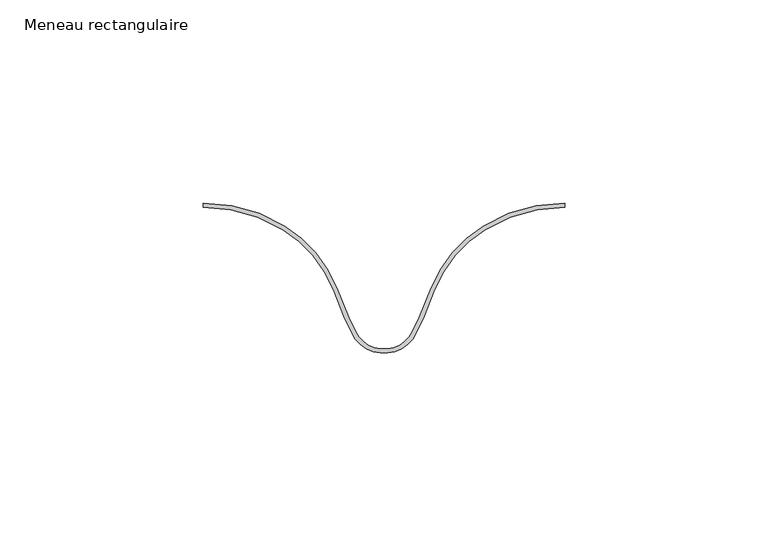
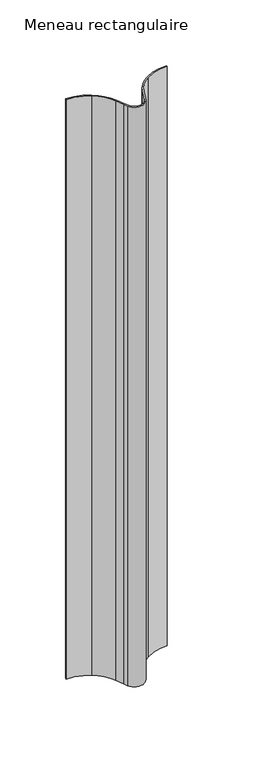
"""IFC4 building model written with IfcOpenShell, lengths in millimetres: member geometry, Meneau rectangulaire : Regolare 800."""

from ifc_helpers import new_model, si_unit, point, frame, frame_2d, origin, place, context, project, spatial, polyline, circle_curve, trimmed, segment, composite_curve, outline, extrude, source, transform, mapped, element, save


def meneau_rectangulaire_3ecfb573(model_context):
    return source(origin(), model_context, "Body", "SweptSolid", [
        extrude(outline(composite_curve([segment(trimmed(circle_curve(frame_2d((40.9600993, 4.3198001)), 30.6166783), [point((24.9849944, 30.4383187))], [point((12.5330095, 15.6900047))], True, "CARTESIAN"), True, "CONTINUOUS"), segment(polyline([(12.5330095, 15.6900047), (9.6514235, 8.4956098), (7.9907988, 5.0311277)]), True, "CONTINUOUS"), segment(trimmed(circle_curve(frame_2d((0.0, 8.8613445)), 8.8613445), [point((7.9907988, 5.0311277))], [point((-7.9907988, 5.0311277))], False, "CARTESIAN"), True, "CONTINUOUS"), segment(polyline([(-7.9907988, 5.0311277), (-9.6514235, 8.4956098), (-12.5330095, 15.6900047)]), True, "CONTINUOUS"), segment(trimmed(circle_curve(frame_2d((-40.9600993, 4.3198001)), 30.6166783), [point((-12.5330095, 15.6900047))], [point((-24.9849944, 30.4383187))], True, "CARTESIAN"), True, "CONTINUOUS"), segment(trimmed(circle_curve(frame_2d((-44.5257445, -1.5098563)), 37.4503244), [point((-24.9849944, 30.4383187))], [point((-44.5257445, 35.9404682))], True, "CARTESIAN"), True, "CONTINUOUS"), segment(polyline([(-44.5257445, 35.9404682), (-44.5257445, 36.9404682)]), True, "CONTINUOUS"), segment(trimmed(circle_curve(frame_2d((-44.5257445, -1.5098563)), 38.4503244), [point((-44.5257445, 36.9404682))], [point((-24.4632165, 31.2914001))], False, "CARTESIAN"), True, "CONTINUOUS"), segment(trimmed(circle_curve(frame_2d((-40.9600993, 4.3198001)), 31.6166783), [point((-24.4632165, 31.2914001))], [point((-11.6046151, 16.0616012))], False, "CARTESIAN"), True, "CONTINUOUS"), segment(polyline([(-11.6046151, 16.0616012), (-8.7353934, 8.8980757), (-7.0890396, 5.4633665)]), True, "CONTINUOUS"), segment(trimmed(circle_curve(frame_2d((0.0, 8.8613445)), 7.8613445), [point((-7.0890396, 5.4633665))], [point((7.0890396, 5.4633665))], True, "CARTESIAN"), True, "CONTINUOUS"), segment(polyline([(7.0890396, 5.4633665), (8.7353934, 8.8980757), (11.6046151, 16.0616012)]), True, "CONTINUOUS"), segment(trimmed(circle_curve(frame_2d((40.9600993, 4.3198001)), 31.6166783), [point((11.6046151, 16.0616012))], [point((24.4632165, 31.2914001))], False, "CARTESIAN"), True, "CONTINUOUS"), segment(trimmed(circle_curve(frame_2d((44.5257445, -1.5098563)), 38.4503244), [point((24.4632165, 31.2914001))], [point((44.5257445, 36.9404682))], False, "CARTESIAN"), True, "CONTINUOUS"), segment(polyline([(44.5257445, 36.9404682), (44.5257445, 35.9404682)]), True, "CONTINUOUS"), segment(trimmed(circle_curve(frame_2d((44.5257445, -1.5098563)), 37.4503244), [point((44.5257445, 35.9404682))], [point((24.9849944, 30.4383187))], True, "CARTESIAN"), True, "CONTINUOUS")], self_intersect=False)), frame((0.0, 0.0, -539.8914595), z_axis=(0.0, 0.0, 1.0), x_axis=(1.0, 0.0, 0.0)), (0.0, 0.0, 1.0), 539.8914595),
    ])


if __name__ == "__main__":
    model = new_model("IFC4")
    model_context = context("Model", 3, world=origin())
    ifc_project = project(units=[si_unit("LENGTHUNIT", "METRE", prefix="MILLI")], contexts=[model_context])
    site = spatial("IfcSite", under=ifc_project)
    building = spatial("IfcBuilding", under=site)
    placement = place(None, origin())
    meneau_rectangulaire_shape = meneau_rectangulaire_3ecfb573(model_context)
    element("IfcMember", 1, ObjectType="Meneau rectangulaire : Regolare 800", at=placement, inside=building, context=model_context, shape_type="MappedRepresentation", body=[
        mapped(meneau_rectangulaire_shape, transform((0.0, 0.0, 0.0), x_axis=(1.0, 0.0, 0.0), y_axis=(0.0, 1.0, 0.0), z_axis=(0.0, 0.0, 1.0))),
    ])
    save(model, "model.ifc")
